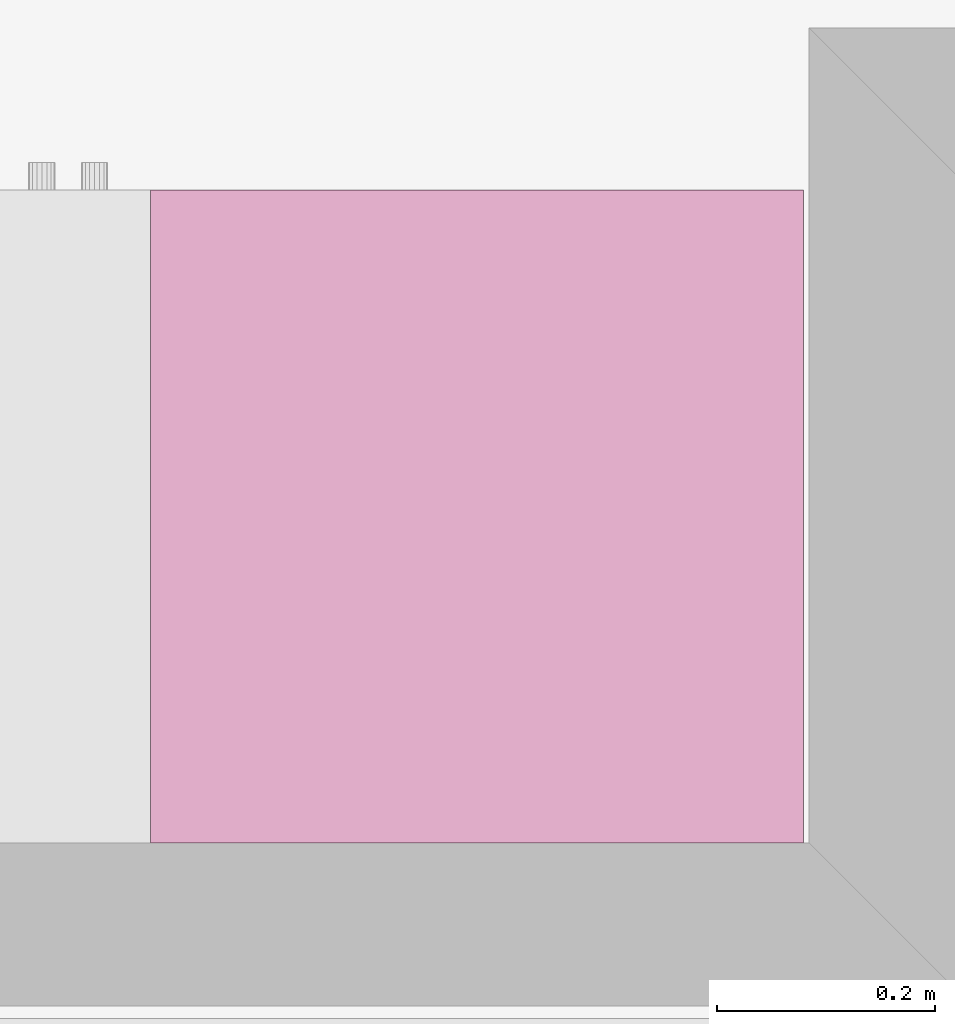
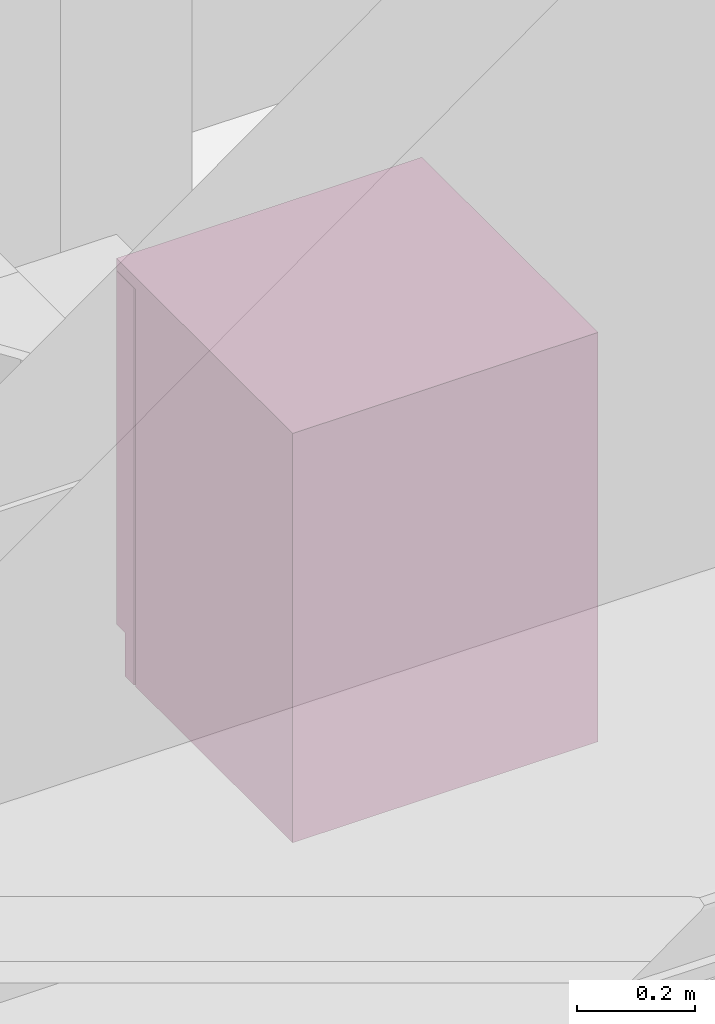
# One storey, part 169 of 172: 1 furnishing.
"""IFC2X3 building model written with IfcOpenShell, lengths in millimetres."""

from ifc_helpers import new_model, entity, si_unit, converted_unit, money_unit, direction, frame, origin_with_axes, place, context, subcontext, project, spatial, open_shell, faceted_brep, surface_model, material, material_list, type_object, element, save


model = new_model("IFC2X3")

# Units and contexts
model_context = context("Model", 3, precision=1e-05, world=origin_with_axes(), true_north=direction((0.0, 1.0)))
body_context = subcontext(model_context, "Body", "Model", "MODEL_VIEW")
ifc_project = project(units=[si_unit("LENGTHUNIT", "METRE", prefix="MILLI"), si_unit("AREAUNIT", "SQUARE_METRE"), si_unit("VOLUMEUNIT", "CUBIC_METRE"), converted_unit("PLANEANGLEUNIT", "DEGREE", entity("IfcPlaneAngleMeasure", 0.0174532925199), si_unit("PLANEANGLEUNIT", "RADIAN"), dimensions=[0, 0, 0, 0, 0, 0, 0]), si_unit("SOLIDANGLEUNIT", "STERADIAN"), money_unit("USD"), converted_unit("TIMEUNIT", "Year", entity("IfcTimeMeasure", 31556926.0), si_unit("TIMEUNIT", "SECOND"), dimensions=[0, 0, 0, 0, 0, 0, 0]), si_unit("MASSUNIT", "GRAM"), si_unit("THERMODYNAMICTEMPERATUREUNIT", "DEGREE_CELSIUS"), si_unit("LUMINOUSINTENSITYUNIT", "LUMEN")], contexts=[model_context])

# Site, building, storey
site_placement = place(None, origin_with_axes())
site = spatial("IfcSite", under=ifc_project, at=site_placement, Name="Site", CompositionType="ELEMENT")
building_placement = place(site_placement, origin_with_axes())
building = spatial("IfcBuilding", under=site, at=building_placement, Name="Building", CompositionType="ELEMENT")
storey_placement = place(building_placement, frame((0.0, 0.0, 3200.0), z_axis=(0.0, 0.0, 1.0), x_axis=(1.0, 0.0, 0.0)))
storey = spatial("IfcBuildingStorey", under=building, at=storey_placement, Name="3KORRUS", CompositionType="ELEMENT", Elevation=3200.0)

# Furnishing
ifc_material = material(Name="Background")
ifc_material_list = material_list([ifc_material])
furnishing_element_type = type_object("IfcFurnishingElementType", Name="Refrigerator 19")
furnishing_placement = place(storey_placement, frame((-52808.4921105, -15138.0262806, 0.0), z_axis=(0.0, 0.0, 1.0), x_axis=(-1.0, 0.0, 0.0)))
element("IfcFurnishingElement", 1, at=furnishing_placement, inside=storey, type_object=furnishing_element_type, material=ifc_material_list, Name="FU - 007", context=body_context, shape_type="SurfaceModel", body=[
    faceted_brep([(0.0, 0.0, 825.0), (0.0, 0.0, 850.0), (-600.0, 0.0, 850.0), (-600.0, 0.0, 825.0), (0.0, 600.0, 825.0), (0.0, 600.0, 850.0), (-600.0, 600.0, 850.0), (-600.0, 600.0, 825.0)], [[[0, 1, 2, 3]], [[4, 5, 1, 0]], [[1, 5, 6, 2]], [[3, 2, 6, 7]], [[0, 3, 7, 4]], [[7, 6, 5, 4]]]),
    faceted_brep([(0.0, 65.0, 0.0), (0.0, 65.0, 825.0), (-600.0, 65.0, 825.0), (-600.0, 65.0, 0.0), (0.0, 600.0, 0.0), (0.0, 600.0, 825.0), (-600.0, 600.0, 825.0), (-600.0, 600.0, 0.0)], [[[0, 1, 2, 3]], [[4, 5, 1, 0]], [[1, 5, 6, 2]], [[3, 2, 6, 7]], [[0, 3, 7, 4]], [[7, 6, 5, 4]]]),
    faceted_brep([(0.0, 30.0, 0.0), (0.0, 30.0, 90.0), (-600.0, 30.0, 90.0), (-600.0, 30.0, 0.0), (0.0, 60.0, 0.0), (0.0, 60.0, 90.0), (-600.0, 60.0, 90.0), (-600.0, 60.0, 0.0)], [[[0, 1, 2, 3]], [[4, 5, 1, 0]], [[1, 5, 6, 2]], [[3, 2, 6, 7]], [[0, 3, 7, 4]], [[7, 6, 5, 4]]]),
    faceted_brep([(0.0, 60.0, 90.0), (0.0, 0.0, 90.0), (-600.0, 0.0, 90.0), (-600.0, 60.0, 90.0), (0.0, 60.0, 824.5), (0.0, 0.0, 824.5), (-600.0, 0.0, 824.5), (-600.0, 60.0, 824.5)], [[[0, 1, 2, 3]], [[4, 5, 1, 0]], [[1, 5, 6, 2]], [[3, 2, 6, 7]], [[0, 3, 7, 4]], [[7, 6, 5, 4]]]),
    surface_model("IfcShellBasedSurfaceModel", [(-600.0, -30.0, 624.5), (-600.0, 0.0, 624.5), (-600.0, 0.0, 824.5), (-600.0, -30.0, 824.5)], [open_shell([[[0, 1, 2, 3]]])]),
    surface_model("IfcShellBasedSurfaceModel", [(-600.0, -30.0, 624.5), (-570.0, -30.0, 624.5), (-570.0, -30.0, 824.5), (-600.0, -30.0, 824.5)], [open_shell([[[0, 1, 2, 3]]])]),
])

save(model, "model.ifc")
